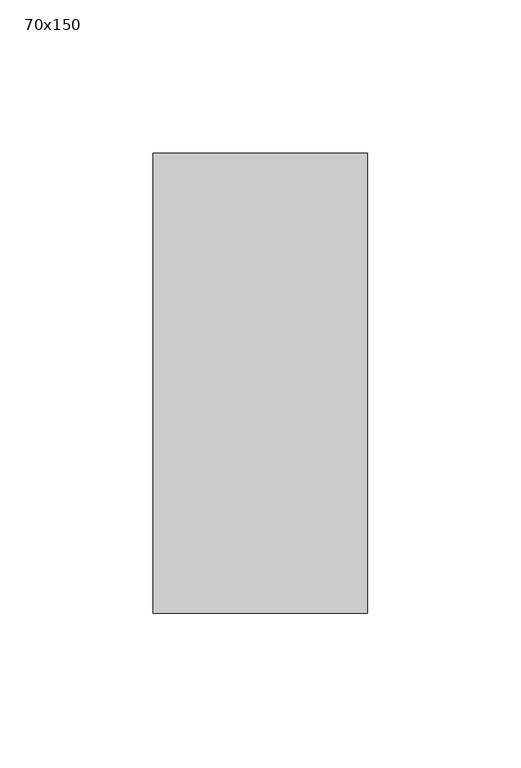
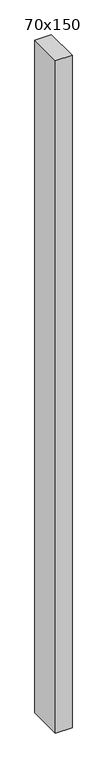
"""IFC4 building model written with IfcOpenShell, lengths in millimetres: member geometry, 長方形のマリオン : 70x150."""

import ifcopenshell
import ifcopenshell.guid

model = None  # the IFC model being written
_history = None  # IfcOwnerHistory: only IFC2X3 demands one
_inside = {}  # id of a spatial element -> (the spatial element, [elements in it])
_under = {}  # id of a project, library or spatial element -> (it, [spatial elements below it])
_declared = {}  # id of a project -> (the project, [libraries it declares])
_typed = {}  # id of a type object -> (the type object, [elements of that type])
_made_of = {}  # id of a material, layer set ... -> (it, [elements and type objects made of it])


def new_model(schema):
    """Start an empty IFC model of exactly this schema.

    Asked for "IFC4X3", IfcOpenShell would pick the latest addendum, in which some entities
    have other attributes; the version numbers below select the first issue.
    IFC2X3 requires an IfcOwnerHistory on every rooted entity: one is made here for all.
    """
    global model, _history
    if schema == "IFC4X3":
        model = ifcopenshell.file(schema_version=(4, 3, 0, 0))
    else:
        model = ifcopenshell.file(schema=schema)
    _inside.clear()
    _under.clear()
    _declared.clear()
    _typed.clear()
    _made_of.clear()
    _history = None
    if model.schema == "IFC2X3":
        org = make("IfcOrganization", Name="unknown")
        user = make(
            "IfcPersonAndOrganization",
            ThePerson=make("IfcPerson", FamilyName="unknown"),
            TheOrganization=org,
        )
        app = make(
            "IfcApplication",
            ApplicationDeveloper=org,
            Version="unknown",
            ApplicationFullName="unknown",
            ApplicationIdentifier="unknown",
        )
        _history = make(
            "IfcOwnerHistory",
            OwningUser=user,
            OwningApplication=app,
            ChangeAction="ADDED",
            CreationDate=0,
        )
    return model


def make(cls, **values):
    """One entity of the class cls with the attributes given. An attribute that is None is left unset."""
    return model.create_entity(
        cls, **{name: value for name, value in values.items() if value is not None}
    )


def rooted(cls, **values):
    """An entity with a GlobalId (a new one), such as an element, a storey or a relation."""
    return make(cls, GlobalId=ifcopenshell.guid.new(), OwnerHistory=_history, **values)


def si_unit(unit_type, name, prefix=None):
    """IfcSIUnit, for example si_unit("LENGTHUNIT", "METRE", prefix="MILLI")."""
    return make("IfcSIUnit", UnitType=unit_type, Prefix=prefix, Name=name)


def assignment(units):
    """IfcUnitAssignment: the units of a project."""
    return None if units is None else make("IfcUnitAssignment", Units=units)


def point(xyz):
    """IfcCartesianPoint."""
    return None if xyz is None else make("IfcCartesianPoint", Coordinates=xyz)


def direction(xyz):
    """IfcDirection."""
    return None if xyz is None else make("IfcDirection", DirectionRatios=xyz)


def frame(location, z_axis=None, x_axis=None):
    """IfcAxis2Placement3D, a coordinate frame: its origin and axes. An axis left out is left unset."""
    return make(
        "IfcAxis2Placement3D",
        Location=point(location),
        Axis=direction(z_axis),
        RefDirection=direction(x_axis),
    )


def origin():
    """The frame at (0, 0, 0) with its axes left unset."""
    return frame((0.0, 0.0, 0.0))


def place(relative_to, where):
    """IfcLocalPlacement: puts the frame where relative to a parent placement (None: the world)."""
    return make(
        "IfcLocalPlacement", PlacementRelTo=relative_to, RelativePlacement=where
    )


def context(
    kind, dimensions, precision=None, world=None, true_north=None, identifier=None
):
    """IfcGeometricRepresentationContext, for example the 3D "Model" context."""
    return make(
        "IfcGeometricRepresentationContext",
        ContextIdentifier=identifier,
        ContextType=kind,
        CoordinateSpaceDimension=dimensions,
        Precision=precision,
        WorldCoordinateSystem=world,
        TrueNorth=true_north,
    )


def project(units=None, contexts=None):
    """IfcProject with its units and contexts."""
    return rooted(
        "IfcProject",
        Name="project",
        RepresentationContexts=contexts,
        UnitsInContext=assignment(units),
    )


def spatial(cls, under=None, at=None, **own):
    """A site, building, storey or space (cls), placed at a placement, below another one or the project."""
    s = rooted(cls, ObjectPlacement=at, **own)
    if under is not None:
        _under.setdefault(under.id(), (under, []))[1].append(s)
    return s


def polyline(points):
    """IfcPolyline through the points."""
    return make("IfcPolyline", Points=[point(p) for p in points])


def outline(outer, holes=None, kind="AREA"):
    """IfcArbitraryClosedProfileDef: a profile drawn as a closed curve; with holes, ...WithVoids."""
    if holes is None:
        return make("IfcArbitraryClosedProfileDef", ProfileType=kind, OuterCurve=outer)
    return make(
        "IfcArbitraryProfileDefWithVoids",
        ProfileType=kind,
        OuterCurve=outer,
        InnerCurves=holes,
    )


def extrude(swept, where, along, depth):
    """IfcExtrudedAreaSolid: the profile swept, set in the frame where, extruded along a direction by depth."""
    return make(
        "IfcExtrudedAreaSolid",
        SweptArea=swept,
        Position=where,
        ExtrudedDirection=direction(along),
        Depth=depth,
    )


def shape(context_of_items, identifier, shape_type, items):
    """IfcShapeRepresentation: the items that make up one representation, for example the "Body"."""
    return make(
        "IfcShapeRepresentation",
        ContextOfItems=context_of_items,
        RepresentationIdentifier=identifier,
        RepresentationType=shape_type,
        Items=items,
    )


def source(mapping_origin, context_of_items, identifier, shape_type, items):
    """IfcRepresentationMap: a shape defined once, which mapped items show again and again."""
    return make(
        "IfcRepresentationMap",
        MappingOrigin=mapping_origin,
        MappedRepresentation=shape(context_of_items, identifier, shape_type, items),
    )


def transform(
    local_origin,
    x_axis=None,
    y_axis=None,
    z_axis=None,
    scale=None,
    scale2=None,
    scale3=None,
    uniform=True,
):
    """IfcCartesianTransformationOperator3D, or its non-uniform kind. x_axis, y_axis, z_axis: its Axis1, 2, 3."""
    if uniform:
        return make(
            "IfcCartesianTransformationOperator3D",
            Axis1=direction(x_axis),
            Axis2=direction(y_axis),
            LocalOrigin=point(local_origin),
            Scale=scale,
            Axis3=direction(z_axis),
        )
    return make(
        "IfcCartesianTransformationOperator3DnonUniform",
        Axis1=direction(x_axis),
        Axis2=direction(y_axis),
        LocalOrigin=point(local_origin),
        Scale=scale,
        Axis3=direction(z_axis),
        Scale2=scale2,
        Scale3=scale3,
    )


def mapped(mapping_source, mapping_target):
    """IfcMappedItem: shows the shape of a source again, moved by a transform."""
    return make(
        "IfcMappedItem", MappingSource=mapping_source, MappingTarget=mapping_target
    )


def made_of(thing, what):
    """Note that an element or type object is made of a material, layer set ...; save() writes the relation."""
    if what is not None:
        _made_of.setdefault(what.id(), (what, []))[1].append(thing)
    return thing


def element(
    cls,
    number,
    at=None,
    inside=None,
    cuts=None,
    type_object=None,
    material=None,
    context=None,
    identifier="Body",
    shape_type=None,
    held_by="IfcProductDefinitionShape",
    body=None,
    shapes=None,
    **own,
):
    """One element of the class cls, such as IfcWall. Its Tag is "e" and its number.

    at: its placement. inside: the storey or other place that contains it. cuts: it is an
    opening in that element (IfcRelVoidsElement). A single representation is given by context,
    identifier, shape_type and body (its items); several are given by shapes. held_by: the class
    of the entity that holds the representations. save() writes the other relations.
    """
    e = rooted(cls, Tag="e%d" % number, ObjectPlacement=at, **own)
    if body is not None:
        shapes = [shape(context, identifier, shape_type, body)]
    if shapes is not None:
        e.Representation = make(held_by, Representations=shapes)
    if inside is not None:
        _inside.setdefault(inside.id(), (inside, []))[1].append(e)
    if cuts is not None:
        rooted(
            "IfcRelVoidsElement", RelatingBuildingElement=cuts, RelatedOpeningElement=e
        )
    if type_object is not None:
        _typed.setdefault(type_object.id(), (type_object, []))[1].append(e)
    return made_of(e, material)


def aggregate(whole, parts):
    """IfcRelAggregates: a whole, such as a stair, and the parts it consists of."""
    return rooted("IfcRelAggregates", RelatingObject=whole, RelatedObjects=parts)


def save(model, path):
    """Write the relations noted so far, then the file.

    IfcRelAggregates (storeys below a building ...), IfcRelContainedInSpatialStructure (elements
    in a storey), IfcRelDefinesByType, IfcRelAssociatesMaterial and IfcRelDeclares: one each for
    every whole, place, type object, material and project.
    """
    for whole, parts in _under.values():
        aggregate(whole, parts)
    for where, things in _inside.values():
        rooted(
            "IfcRelContainedInSpatialStructure",
            RelatedElements=things,
            RelatingStructure=where,
        )
    for kind, things in _typed.values():
        rooted("IfcRelDefinesByType", RelatedObjects=things, RelatingType=kind)
    for what, things in _made_of.values():
        rooted("IfcRelAssociatesMaterial", RelatedObjects=things, RelatingMaterial=what)
    for by, libraries in _declared.values():
        rooted("IfcRelDeclares", RelatingContext=by, RelatedDefinitions=libraries)
    model.write(path)


def member_70x150_1b280ac3(model_context):
    return source(origin(), model_context, "Body", "SweptSolid", [
        extrude(outline(polyline([(0.0, 75.0), (0.0, -75.0), (-70.0, -75.0), (-70.0, 75.0), (0.0, 75.0)])), frame((0.0, 0.0, -3000.0), z_axis=(0.0, 0.0, 1.0), x_axis=(1.0, 0.0, 0.0)), (0.0, 0.0, 1.0), 3000.0),
    ])


if __name__ == "__main__":
    model = new_model("IFC4")
    model_context = context("Model", 3, world=origin())
    ifc_project = project(units=[si_unit("LENGTHUNIT", "METRE", prefix="MILLI")], contexts=[model_context])
    site = spatial("IfcSite", under=ifc_project)
    building = spatial("IfcBuilding", under=site)
    placement = place(None, origin())
    member_70x150_shape = member_70x150_1b280ac3(model_context)
    element("IfcMember", 1, ObjectType="長方形のマリオン : 70x150", at=placement, inside=building, context=model_context, shape_type="MappedRepresentation", body=[
        mapped(member_70x150_shape, transform((0.0, 0.0, 0.0), x_axis=(1.0, 0.0, 0.0), y_axis=(0.0, 1.0, 0.0), z_axis=(0.0, 0.0, 1.0))),
    ])
    save(model, "model.ifc")
